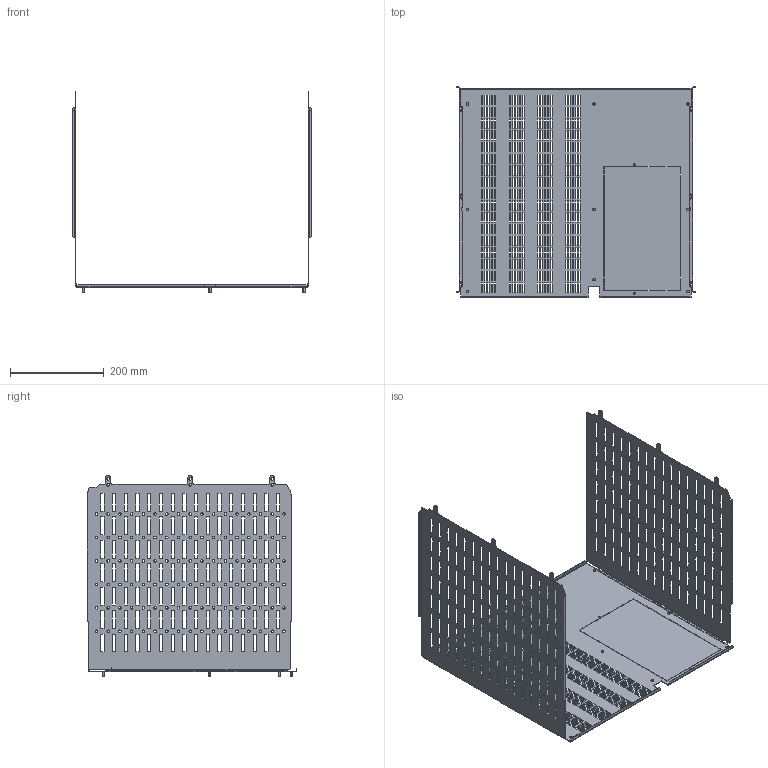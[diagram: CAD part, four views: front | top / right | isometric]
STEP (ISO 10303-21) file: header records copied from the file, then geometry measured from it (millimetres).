
FILE_DESCRIPTION(('CAx-IF Rec.Pracs.---Model Styling and Organization---1.2---2011-12-15','CAx-IF Rec.Pracs.---Geometric and Assembly Validation Properties---4.1---2014-06-16','CAx-IF Rec.Pracs.---PMI Polyline Presentation---2.0---2013-05-24'),'2;1');
FILE_NAME('R5M2WPV9M.stp','2021-05-05T13:02:56+03:00',(''),(''),'STEP Interface 4.4 by CT CoreTechnologie','3D_Evolution4.4 by CT CoreTechnologie','');
FILE_SCHEMA(('AUTOMOTIVE_DESIGN { 1 0 10303 214 1 1 1 1 }'));
Length unit declared in the file: millimetre
Products named in the file (5): R5M2WPV9M; RB.1285.00.00.0_-14; RB.1285.00.00.0_-15; M5x8-DIN7500C_stright; RB.1600.00.00.0_-05
Assembly tree (12 placements, depth 2):
  R5M2WPV9M
    RB.1285.00.00.0_-14
    RB.1285.00.00.0_-15
    M5x8-DIN7500C_stright  x9
    RB.1600.00.00.0_-05
Bounding box: 510 x 447.5 x 429.1 mm (x, y, z)
Surface area: 1042468.9 mm2 (no closed solid volume)
Topology: 0 solids, 14 shells, 3038 faces, 9078 edges, 6056 vertices
Faces by surface type: plane 2508, cylinder 530
Entity records: 103966 total; most frequent: CARTESIAN_POINT 18073, ORIENTED_EDGE 18060, DIRECTION 16100, EDGE_CURVE 9030, VECTOR 7998, LINE 7998, VERTEX_POINT 6024, EDGE_LOOP 4624
